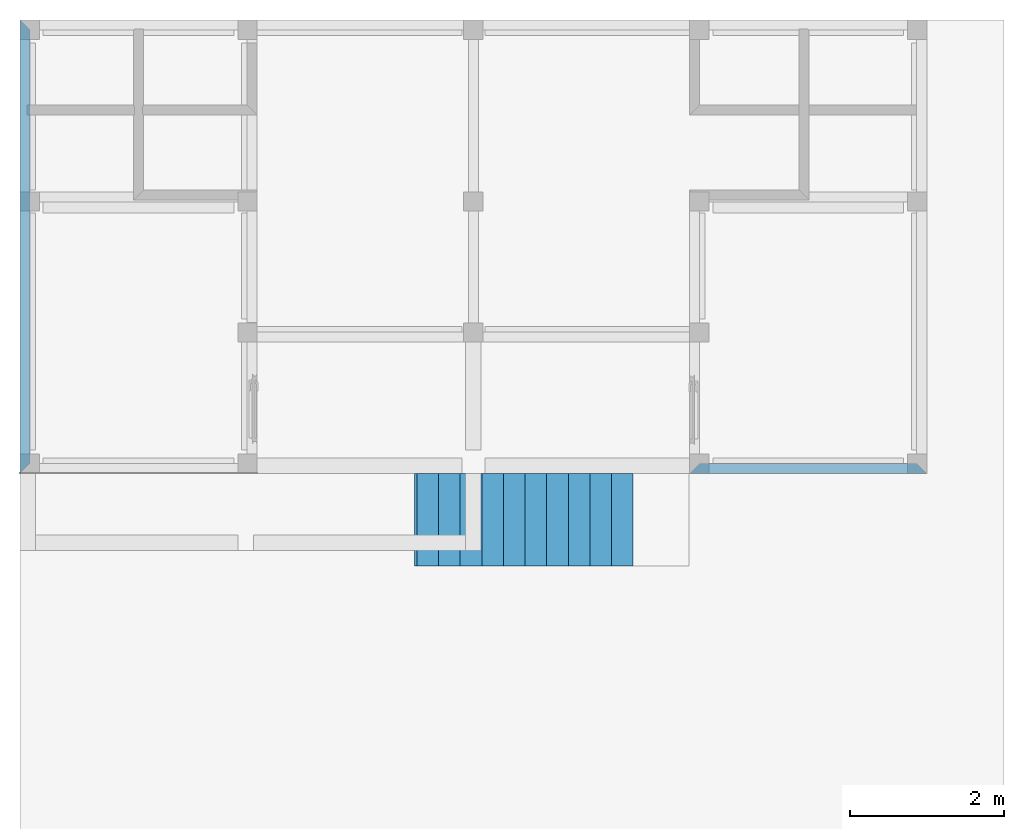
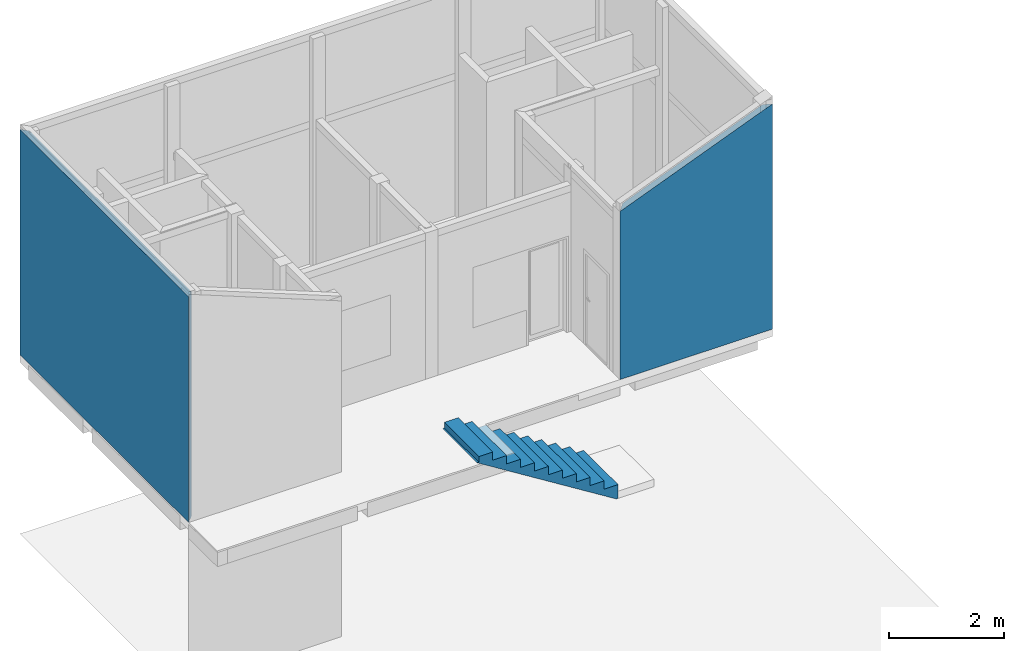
# One storey, part 6 of 8: 2 walls, 1 stair flight.
"""IFC4X3_ADD2 building model written with IfcOpenShell, lengths in millimetres."""

from ifc_helpers import new_model, entity, si_unit, converted_unit, frame, origin_with_axes, origin_2d_with_axis, place, context, subcontext, project, spatial, line, indexed_curve, outline, extrude, boolean, clip, halfspace, polygons, source, transform, mapped, material, layer, layer_set, layer_usage, type_object, type_shapes, element, save


model = new_model("IFC4X3_ADD2")

# Units and contexts
model_context = context("Model", 3, precision=1e-05, world=origin_with_axes())
plan_context = context("Plan", 2, precision=1e-05, world=origin_2d_with_axis())
body_context = subcontext(model_context, "Body", "Model", "MODEL_VIEW")
ifc_project = project(units=[si_unit("VOLUMEUNIT", "CUBIC_METRE"), si_unit("LENGTHUNIT", "METRE", prefix="MILLI"), converted_unit("PLANEANGLEUNIT", "degree", entity("IfcReal", 0.0174532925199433), si_unit("PLANEANGLEUNIT", "RADIAN"), dimensions=[0, 0, 0, 0, 0, 0, 0]), si_unit("AREAUNIT", "SQUARE_METRE")], contexts=[model_context, plan_context])

# Site, building, storey
site_placement = place(None, origin_with_axes())
site = spatial("IfcSite", under=ifc_project, at=site_placement, Name="My Site")
building_placement = place(site_placement, origin_with_axes())
building = spatial("IfcBuilding", under=site, at=building_placement, Name="My Building")
storey_placement = place(building_placement, origin_with_axes())
storey = spatial("IfcBuildingStorey", under=building, at=storey_placement, Name="Lantai 2")

# Walls
ifc_material_1 = material(Name="plester")
ifc_layer_1 = layer(ifc_material_1, 15.0000009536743, Priority=1)
ifc_material_2 = material(Name="brick", Category="Uncategorised")
ifc_layer_2 = layer(ifc_material_2, 100.0, Priority=4)
ifc_layer_3 = layer(ifc_material_1, 15.0000009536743)
ifc_layer_set = layer_set([ifc_layer_1, ifc_layer_2, ifc_layer_3])
ifc_layer_usage_1 = layer_usage(ifc_layer_set, "AXIS2", "NEGATIVE", 0.0)
wall_type = type_object("IfcWallType", Name="WALL-130", PredefinedType="SOLIDWALL", material=ifc_layer_set)
wall_1_placement = place(storey_placement, frame((11590.0005957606, -150.000005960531, 3500.00023841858), z_axis=(0.0, 0.0, 1.0), x_axis=(-0.999999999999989, 1.50995802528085e-07, 0.0)))
element("IfcWall", 1, at=wall_1_placement, inside=storey, type_object=wall_type, material=ifc_layer_usage_1, Name="Wall", context=body_context, shape_type="Clipping", body=[
    clip(boolean("DIFFERENCE", extrude(outline(indexed_curve([(130.000031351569, -130.000001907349), (115.000027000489, -115.000000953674), (15.000004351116, -15.0000009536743), (3.55263327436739e-11, 0.0), (3070.00013799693, 0.0), (3055.00013568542, -15.0000009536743), (2955.00012663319, -115.000000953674), (2940.00012432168, -130.000001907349)], segments=[line(1, 2, 3, 4, 5, 6, 7, 8, 1)])), origin_with_axes(), (0.0, 0.0, 1.0), 4795.9228515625), polygons([(4380.07568359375, -1535.05041503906, 3126.78295898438), (7439.6220703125, -1535.00170898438, 3126.76342773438), (11649.8505859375, -5740.08837890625, 4795.9228515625), (169.8544921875, -5740.09033203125, 4795.9228515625), (11649.84765625, -129.278656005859, 4795.9228515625), (11649.849609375, -5740.0859375, 4795.9228515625), (7444.80908203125, -1529.86633300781, 3126.78295898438), (7444.7607421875, -129.279281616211, 3126.76391601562), (169.8564453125, -5740.09033203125, 4795.8994140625), (169.8544921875, -129.281524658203, 4795.8994140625), (4374.89453125, -129.28076171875, 3126.76049804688), (4374.94287109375, -1529.86267089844, 3126.74145507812), (4380.07568359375, -1535.05041503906, 4795.96435546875), (7439.6220703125, -1535.00170898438, 4795.94482421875), (11649.8505859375, -5740.08837890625, 6465.1044921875), (169.8544921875, -5740.09033203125, 6465.1044921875), (11649.84765625, -129.278656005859, 6465.1044921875), (7444.7607421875, -129.279281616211, 4795.9453125), (7444.80908203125, -1529.86633300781, 4795.96435546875), (11649.849609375, -5740.0859375, 6465.1044921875), (169.8564453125, -5740.09033203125, 6465.0810546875), (4374.94287109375, -1529.86267089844, 4795.9228515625), (4374.89453125, -129.28076171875, 4795.94189453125), (169.8544921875, -129.281524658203, 6465.0810546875)], [[[1, 4, 3, 2]], [[5, 6, 7, 8]], [[9, 10, 11, 12]], [[13, 14, 15, 16]], [[17, 18, 19, 20]], [[21, 22, 23, 24]], [[2, 3, 15, 14]], [[10, 9, 21, 24]], [[7, 6, 20, 19]], [[3, 4, 16, 15]], [[11, 10, 24, 23]], [[4, 1, 13, 16]], [[8, 7, 19, 18]], [[5, 8, 18, 17]], [[12, 11, 23, 22]], [[1, 2, 14, 13]], [[9, 12, 22, 21]], [[6, 5, 17, 20]]])), halfspace(frame((793.245361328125, -1094.87561035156, 4474.642578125), z_axis=(0.368086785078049, 5.55795551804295e-08, 0.929791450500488), x_axis=(-0.929791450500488, 1.06011981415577e-08, 0.368086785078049)), False)),
])
ifc_layer_usage_2 = layer_usage(ifc_layer_set, "AXIS2", "NEGATIVE", 0.0)
wall_2_placement = place(storey_placement, frame((-149.999991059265, -19.9995397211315, 3500.00023841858), z_axis=(0.0, 0.0, 1.0), x_axis=(1.94707183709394e-07, 0.999999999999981, 0.0)))
element("IfcWall", 2, at=wall_2_placement, inside=storey, type_object=wall_type, material=ifc_layer_usage_2, Name="Wall", context=body_context, shape_type="SweptSolid", body=[
    boolean("DIFFERENCE", boolean("DIFFERENCE", extrude(outline(indexed_curve([(5.68247963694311e-06, -130.000001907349), (5.02680887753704e-06, -115.000000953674), (-14.9999959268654, -115.000000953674), (-115.000000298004, -15.0000009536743), (-130.000001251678, -15.0000009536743), (-130.000001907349, 0.0), (5739.99932991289, 0.0), (5724.99933187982, -15.0000009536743), (5624.99935135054, -115.000000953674), (5609.99935331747, -130.000001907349)], segments=[line(1, 2, 3, 4, 5, 6, 7, 8, 9, 10, 1)])), origin_with_axes(), (0.0, 0.0, 1.0), 4795.9228515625), polygons([(1405.05200195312, -7359.9248046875, 3126.78295898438), (1405.00317382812, -4300.37841796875, 3126.76342773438), (5610.08984375, -90.1501159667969, 4795.9228515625), (5610.09228515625, -11570.146484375, 4795.9228515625), (-0.720029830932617, -90.1528778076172, 4795.9228515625), (5610.08740234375, -90.1515502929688, 4795.9228515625), (1399.86779785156, -4295.19140625, 3126.78295898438), (-0.71922492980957, -4295.240234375, 3126.76391601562), (5610.09228515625, -11570.14453125, 4795.8994140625), (-0.71666145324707, -11570.146484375, 4795.8994140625), (-0.717613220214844, -7365.1064453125, 3126.76049804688), (1399.8642578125, -7365.0576171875, 3126.74145507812), (1405.05200195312, -7359.9248046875, 4795.96435546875), (1405.00317382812, -4300.37841796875, 4795.94482421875), (5610.08984375, -90.1501159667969, 6465.1044921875), (5610.09228515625, -11570.146484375, 6465.1044921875), (-0.720029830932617, -90.1528778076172, 6465.1044921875), (-0.71922492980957, -4295.240234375, 4795.9453125), (1399.86779785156, -4295.19140625, 4795.96435546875), (5610.08740234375, -90.1515502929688, 6465.1044921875), (5610.09228515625, -11570.14453125, 6465.0810546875), (1399.8642578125, -7365.0576171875, 4795.9228515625), (-0.717613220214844, -7365.1064453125, 4795.94189453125), (-0.71666145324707, -11570.146484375, 6465.0810546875)], [[[1, 4, 3, 2]], [[5, 6, 7, 8]], [[9, 10, 11, 12]], [[13, 14, 15, 16]], [[17, 18, 19, 20]], [[21, 22, 23, 24]], [[5, 8, 18, 17]], [[12, 11, 23, 22]], [[1, 2, 14, 13]], [[9, 12, 22, 21]], [[6, 5, 17, 20]], [[2, 3, 15, 14]], [[10, 9, 21, 24]], [[7, 6, 20, 19]], [[3, 4, 16, 15]], [[11, 10, 24, 23]], [[4, 1, 13, 16]], [[8, 7, 19, 18]]])), polygons([(1405.05200195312, -7359.9248046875, 3126.78295898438), (1405.00317382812, -4300.37841796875, 3126.76342773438), (5610.08984375, -90.1501159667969, 4795.9228515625), (5610.09228515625, -11570.146484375, 4795.9228515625), (-0.720029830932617, -90.1528778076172, 4795.9228515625), (5610.08740234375, -90.1515502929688, 4795.9228515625), (1399.86779785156, -4295.19140625, 3126.78295898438), (-0.71922492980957, -4295.240234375, 3126.76391601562), (5610.09228515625, -11570.14453125, 4795.8994140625), (-0.71666145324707, -11570.146484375, 4795.8994140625), (-0.717613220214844, -7365.1064453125, 3126.76049804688), (1399.8642578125, -7365.0576171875, 3126.74145507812), (1405.05200195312, -7359.9248046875, 4795.96435546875), (1405.00317382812, -4300.37841796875, 4795.94482421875), (5610.08984375, -90.1501159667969, 6465.1044921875), (5610.09228515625, -11570.146484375, 6465.1044921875), (-0.720029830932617, -90.1528778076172, 6465.1044921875), (-0.71922492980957, -4295.240234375, 4795.9453125), (1399.86779785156, -4295.19140625, 4795.96435546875), (5610.08740234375, -90.1515502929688, 6465.1044921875), (5610.09228515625, -11570.14453125, 6465.0810546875), (1399.8642578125, -7365.0576171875, 4795.9228515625), (-0.717613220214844, -7365.1064453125, 4795.94189453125), (-0.71666145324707, -11570.146484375, 6465.0810546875)], [[[1, 4, 3, 2]], [[5, 6, 7, 8]], [[9, 10, 11, 12]], [[13, 14, 15, 16]], [[17, 18, 19, 20]], [[21, 22, 23, 24]], [[3, 4, 16, 15]], [[11, 10, 24, 23]], [[4, 1, 13, 16]], [[8, 7, 19, 18]], [[5, 8, 18, 17]], [[12, 11, 23, 22]], [[1, 2, 14, 13]], [[9, 12, 22, 21]], [[6, 5, 17, 20]], [[2, 3, 15, 14]], [[10, 9, 21, 24]], [[7, 6, 20, 19]]])),
])

# Stair flight
stair_flight_type = type_object("IfcStairFlightType", Name="stair 2", PredefinedType="SPIRAL")
shared_shape = source(origin_with_axes(), body_context, "Body", "Tessellation", [
    polygons([(0.0, 0.0, 0.0), (0.0, 0.0, 175.0), (280.0, 0.0, 175.0), (280.0, 0.0, 350.0), (560.0, 0.0, 350.0), (560.0, 0.0, 525.0), (840.0, 0.0, 525.0), (840.0, 0.0, 700.0), (1120.0, 0.0, 700.0), (1120.0, 0.0, 875.0), (1399.99987792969, 0.0, 875.0), (1399.99987792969, 0.0, 1050.0), (1679.99987792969, 0.0, 1050.0), (1679.99987792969, 0.0, 1225.00012207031), (1959.99987792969, 0.0, 1225.00012207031), (1959.99987792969, 0.0, 1400.0), (2240.0, 0.0, 1400.0), (2240.0, 0.0, 1575.0), (2519.99975585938, 0.0, 1575.0), (2519.99975585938, 0.0, 1749.99987792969), (2799.99975585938, 0.0, 1749.99987792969), (2799.99975585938, 0.0, 1629.99987792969), (2834.41528320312, 0.0, 1629.99987792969), (34.4155693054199, 0.0, -120.0), (0.0, 0.0, -120.0), (0.0, 1200.0, 175.0), (280.0, 1200.0, 175.0), (280.0, 1200.0, 350.0), (560.0, 1200.0, 350.0), (560.0, 1200.0, 525.0), (840.0, 1200.0, 525.0), (840.0, 1200.0, 700.0), (1120.0, 1200.0, 700.0), (1120.0, 1200.0, 875.0), (1399.99987792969, 1200.0, 875.0), (1399.99987792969, 1200.0, 1050.0), (1679.99987792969, 1200.0, 1050.0), (1679.99987792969, 1200.0, 1225.00012207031), (1959.99987792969, 1200.0, 1225.00012207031), (1959.99987792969, 1200.0, 1400.0), (2240.0, 1200.0, 1400.0), (2240.0, 1200.0, 1575.0), (2519.99975585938, 1200.0, 1575.0), (2519.99975585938, 1200.0, 1749.99987792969), (2799.99975585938, 1200.0, 1749.99987792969), (2799.99975585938, 1200.0, 1629.99987792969), (2834.41528320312, 1200.0, 1629.99987792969), (34.4155693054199, 1200.0, -120.0), (0.0, 1200.0, -120.0), (0.0, 1200.0, 0.0)], [[[2, 1, 25, 24, 23, 22, 21, 20, 19, 18, 17, 16, 15, 14, 13, 12, 11, 10, 9, 8, 7, 6, 5, 4, 3]], [[26, 27, 28, 29, 30, 31, 32, 33, 34, 35, 36, 37, 38, 39, 40, 41, 42, 43, 44, 45, 46, 47, 48, 49, 50]], [[15, 16, 40, 39]], [[8, 9, 33, 32]], [[25, 1, 50, 49]], [[1, 2, 26, 50]], [[16, 17, 41, 40]], [[9, 10, 34, 33]], [[24, 25, 49, 48]], [[2, 3, 27, 26]], [[17, 18, 42, 41]], [[10, 11, 35, 34]], [[23, 24, 48, 47]], [[3, 4, 28, 27]], [[18, 19, 43, 42]], [[11, 12, 36, 35]], [[4, 5, 29, 28]], [[19, 20, 44, 43]], [[12, 13, 37, 36]], [[5, 6, 30, 29]], [[20, 21, 45, 44]], [[13, 14, 38, 37]], [[6, 7, 31, 30]], [[21, 22, 46, 45]], [[14, 15, 39, 38]], [[7, 8, 32, 31]], [[22, 23, 47, 46]]], closed=True),
])
type_shapes(stair_flight_type, [shared_shape])
stair_flight_placement = place(storey_placement, frame((7789.77203369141, -151.001214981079, 2080.00040054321), z_axis=(0.0, 0.0, 1.0), x_axis=(-0.999999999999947, -3.25841369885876e-07, 0.0)))
element("IfcStairFlight", 3, at=stair_flight_placement, inside=storey, type_object=stair_flight_type, Name="StairFlight", NumberOfRisers=10, NumberOfTreads=9, PredefinedType="STRAIGHT", RiserHeight=175.000011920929, TreadLength=120.000004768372, context=body_context, shape_type="MappedRepresentation", body=[
    mapped(shared_shape, transform((0.0, 0.0, 0.0), x_axis=(1.0, 0.0, 0.0), y_axis=(0.0, 1.0, 0.0), z_axis=(0.0, 0.0, 1.0), scale=1.0)),
])

save(model, "model.ifc")
